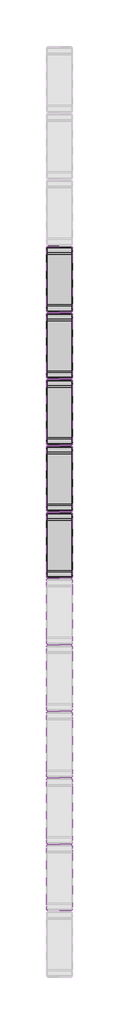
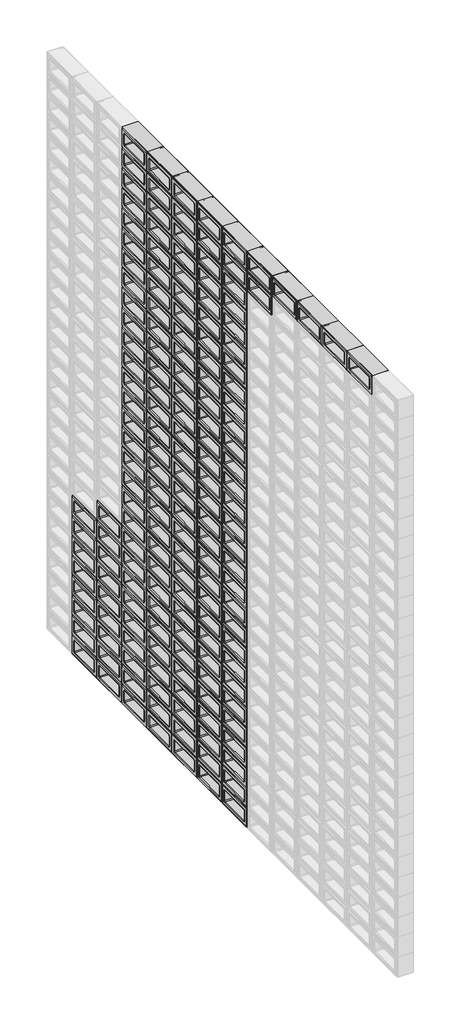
# One storey, part 2 of 59: 168 plates.
"""IFC4 building model written with IfcOpenShell, lengths in millimetres."""

from ifc_helpers import new_model, si_unit, origin, place, context, project, spatial, transform, mapped, element, save
from components import plate_12236348

model = new_model("IFC4")

# Units and contexts
model_context = context("Model", 3, world=origin())
ifc_project = project(units=[si_unit("LENGTHUNIT", "METRE", prefix="MILLI")], contexts=[model_context])

# Site, building, storey
site = spatial("IfcSite", under=ifc_project)
building = spatial("IfcBuilding", under=site)
storey = spatial("IfcBuildingStorey", under=building, Name="PORTOBELLO - SHOWROOM", Elevation=0.0)

# Plates
placement = place(None, origin())
plate_shape = plate_12236348(model_context)
element("IfcPlate", 1, ObjectType="PBSHOP - ON FIRE AURORA 9X19 (PAINEL CORTINA) : AURORA", at=placement, inside=storey, context=model_context, shape_type="MappedRepresentation", body=[
    mapped(plate_shape, transform((-33705.5633853, -7836.0202581, 0.0), x_axis=(0.0, 1.0, 0.0), y_axis=(-1.0, 0.0, 0.0), z_axis=(0.0, 0.0, 1.0))),
])
element("IfcPlate", 2, ObjectType="PBSHOP - ON FIRE AURORA 9X19 (PAINEL CORTINA) : AURORA", at=placement, inside=storey, context=model_context, shape_type="MappedRepresentation", body=[
    mapped(plate_shape, transform((-33705.5633853, -7642.0202581, 0.0), x_axis=(0.0, 1.0, 0.0), y_axis=(-1.0, 0.0, 0.0), z_axis=(0.0, 0.0, 1.0))),
])
element("IfcPlate", 3, ObjectType="PBSHOP - ON FIRE AURORA 9X19 (PAINEL CORTINA) : AURORA", at=placement, inside=storey, context=model_context, shape_type="MappedRepresentation", body=[
    mapped(plate_shape, transform((-33705.5633853, -7448.0202581, 0.0), x_axis=(0.0, 1.0, 0.0), y_axis=(-1.0, 0.0, 0.0), z_axis=(0.0, 0.0, 1.0))),
])
element("IfcPlate", 4, ObjectType="PBSHOP - ON FIRE AURORA 9X19 (PAINEL CORTINA) : AURORA", at=placement, inside=storey, context=model_context, shape_type="MappedRepresentation", body=[
    mapped(plate_shape, transform((-33705.5633853, -7836.0202581, 94.0), x_axis=(0.0, 1.0, 0.0), y_axis=(-1.0, 0.0, 0.0), z_axis=(0.0, 0.0, 1.0))),
])
element("IfcPlate", 5, ObjectType="PBSHOP - ON FIRE AURORA 9X19 (PAINEL CORTINA) : AURORA", at=placement, inside=storey, context=model_context, shape_type="MappedRepresentation", body=[
    mapped(plate_shape, transform((-33705.5633853, -7642.0202581, 94.0), x_axis=(0.0, 1.0, 0.0), y_axis=(-1.0, 0.0, 0.0), z_axis=(0.0, 0.0, 1.0))),
])
element("IfcPlate", 6, ObjectType="PBSHOP - ON FIRE AURORA 9X19 (PAINEL CORTINA) : AURORA", at=placement, inside=storey, context=model_context, shape_type="MappedRepresentation", body=[
    mapped(plate_shape, transform((-33705.5633853, -7448.0202581, 94.0), x_axis=(0.0, 1.0, 0.0), y_axis=(-1.0, 0.0, 0.0), z_axis=(0.0, 0.0, 1.0))),
])
element("IfcPlate", 7, ObjectType="PBSHOP - ON FIRE AURORA 9X19 (PAINEL CORTINA) : AURORA", at=placement, inside=storey, context=model_context, shape_type="MappedRepresentation", body=[
    mapped(plate_shape, transform((-33705.5633853, -7836.0202581, 188.0), x_axis=(0.0, 1.0, 0.0), y_axis=(-1.0, 0.0, 0.0), z_axis=(0.0, 0.0, 1.0))),
])
element("IfcPlate", 8, ObjectType="PBSHOP - ON FIRE AURORA 9X19 (PAINEL CORTINA) : AURORA", at=placement, inside=storey, context=model_context, shape_type="MappedRepresentation", body=[
    mapped(plate_shape, transform((-33705.5633853, -7642.0202581, 188.0), x_axis=(0.0, 1.0, 0.0), y_axis=(-1.0, 0.0, 0.0), z_axis=(0.0, 0.0, 1.0))),
])
element("IfcPlate", 9, ObjectType="PBSHOP - ON FIRE AURORA 9X19 (PAINEL CORTINA) : AURORA", at=placement, inside=storey, context=model_context, shape_type="MappedRepresentation", body=[
    mapped(plate_shape, transform((-33705.5633853, -7448.0202581, 188.0), x_axis=(0.0, 1.0, 0.0), y_axis=(-1.0, 0.0, 0.0), z_axis=(0.0, 0.0, 1.0))),
])
element("IfcPlate", 10, ObjectType="PBSHOP - ON FIRE AURORA 9X19 (PAINEL CORTINA) : AURORA", at=placement, inside=storey, context=model_context, shape_type="MappedRepresentation", body=[
    mapped(plate_shape, transform((-33705.5633853, -7836.0202581, 282.0), x_axis=(0.0, 1.0, 0.0), y_axis=(-1.0, 0.0, 0.0), z_axis=(0.0, 0.0, 1.0))),
])
element("IfcPlate", 11, ObjectType="PBSHOP - ON FIRE AURORA 9X19 (PAINEL CORTINA) : AURORA", at=placement, inside=storey, context=model_context, shape_type="MappedRepresentation", body=[
    mapped(plate_shape, transform((-33705.5633853, -7642.0202581, 282.0), x_axis=(0.0, 1.0, 0.0), y_axis=(-1.0, 0.0, 0.0), z_axis=(0.0, 0.0, 1.0))),
])
element("IfcPlate", 12, ObjectType="PBSHOP - ON FIRE AURORA 9X19 (PAINEL CORTINA) : AURORA", at=placement, inside=storey, context=model_context, shape_type="MappedRepresentation", body=[
    mapped(plate_shape, transform((-33705.5633853, -7448.0202581, 282.0), x_axis=(0.0, 1.0, 0.0), y_axis=(-1.0, 0.0, 0.0), z_axis=(0.0, 0.0, 1.0))),
])
element("IfcPlate", 13, ObjectType="PBSHOP - ON FIRE AURORA 9X19 (PAINEL CORTINA) : AURORA", at=placement, inside=storey, context=model_context, shape_type="MappedRepresentation", body=[
    mapped(plate_shape, transform((-33705.5633853, -7836.0202581, 376.0), x_axis=(0.0, 1.0, 0.0), y_axis=(-1.0, 0.0, 0.0), z_axis=(0.0, 0.0, 1.0))),
])
element("IfcPlate", 14, ObjectType="PBSHOP - ON FIRE AURORA 9X19 (PAINEL CORTINA) : AURORA", at=placement, inside=storey, context=model_context, shape_type="MappedRepresentation", body=[
    mapped(plate_shape, transform((-33705.5633853, -7642.0202581, 376.0), x_axis=(0.0, 1.0, 0.0), y_axis=(-1.0, 0.0, 0.0), z_axis=(0.0, 0.0, 1.0))),
])
element("IfcPlate", 15, ObjectType="PBSHOP - ON FIRE AURORA 9X19 (PAINEL CORTINA) : AURORA", at=placement, inside=storey, context=model_context, shape_type="MappedRepresentation", body=[
    mapped(plate_shape, transform((-33705.5633853, -7448.0202581, 376.0), x_axis=(0.0, 1.0, 0.0), y_axis=(-1.0, 0.0, 0.0), z_axis=(0.0, 0.0, 1.0))),
])
element("IfcPlate", 16, ObjectType="PBSHOP - ON FIRE AURORA 9X19 (PAINEL CORTINA) : AURORA", at=placement, inside=storey, context=model_context, shape_type="MappedRepresentation", body=[
    mapped(plate_shape, transform((-33705.5633853, -7836.0202581, 470.0), x_axis=(0.0, 1.0, 0.0), y_axis=(-1.0, 0.0, 0.0), z_axis=(0.0, 0.0, 1.0))),
])
element("IfcPlate", 17, ObjectType="PBSHOP - ON FIRE AURORA 9X19 (PAINEL CORTINA) : AURORA", at=placement, inside=storey, context=model_context, shape_type="MappedRepresentation", body=[
    mapped(plate_shape, transform((-33705.5633853, -7642.0202581, 470.0), x_axis=(0.0, 1.0, 0.0), y_axis=(-1.0, 0.0, 0.0), z_axis=(0.0, 0.0, 1.0))),
])
element("IfcPlate", 18, ObjectType="PBSHOP - ON FIRE AURORA 9X19 (PAINEL CORTINA) : AURORA", at=placement, inside=storey, context=model_context, shape_type="MappedRepresentation", body=[
    mapped(plate_shape, transform((-33705.5633853, -7448.0202581, 470.0), x_axis=(0.0, 1.0, 0.0), y_axis=(-1.0, 0.0, 0.0), z_axis=(0.0, 0.0, 1.0))),
])
element("IfcPlate", 19, ObjectType="PBSHOP - ON FIRE AURORA 9X19 (PAINEL CORTINA) : AURORA", at=placement, inside=storey, context=model_context, shape_type="MappedRepresentation", body=[
    mapped(plate_shape, transform((-33705.5633853, -7836.0202581, 564.0), x_axis=(0.0, 1.0, 0.0), y_axis=(-1.0, 0.0, 0.0), z_axis=(0.0, 0.0, 1.0))),
])
element("IfcPlate", 20, ObjectType="PBSHOP - ON FIRE AURORA 9X19 (PAINEL CORTINA) : AURORA", at=placement, inside=storey, context=model_context, shape_type="MappedRepresentation", body=[
    mapped(plate_shape, transform((-33705.5633853, -7642.0202581, 564.0), x_axis=(0.0, 1.0, 0.0), y_axis=(-1.0, 0.0, 0.0), z_axis=(0.0, 0.0, 1.0))),
])
element("IfcPlate", 21, ObjectType="PBSHOP - ON FIRE AURORA 9X19 (PAINEL CORTINA) : AURORA", at=placement, inside=storey, context=model_context, shape_type="MappedRepresentation", body=[
    mapped(plate_shape, transform((-33705.5633853, -7448.0202581, 564.0), x_axis=(0.0, 1.0, 0.0), y_axis=(-1.0, 0.0, 0.0), z_axis=(0.0, 0.0, 1.0))),
])
element("IfcPlate", 22, ObjectType="PBSHOP - ON FIRE AURORA 9X19 (PAINEL CORTINA) : AURORA", at=placement, inside=storey, context=model_context, shape_type="MappedRepresentation", body=[
    mapped(plate_shape, transform((-33705.5633853, -7836.0202581, 658.0), x_axis=(0.0, 1.0, 0.0), y_axis=(-1.0, 0.0, 0.0), z_axis=(0.0, 0.0, 1.0))),
])
element("IfcPlate", 23, ObjectType="PBSHOP - ON FIRE AURORA 9X19 (PAINEL CORTINA) : AURORA", at=placement, inside=storey, context=model_context, shape_type="MappedRepresentation", body=[
    mapped(plate_shape, transform((-33705.5633853, -7642.0202581, 658.0), x_axis=(0.0, 1.0, 0.0), y_axis=(-1.0, 0.0, 0.0), z_axis=(0.0, 0.0, 1.0))),
])
element("IfcPlate", 24, ObjectType="PBSHOP - ON FIRE AURORA 9X19 (PAINEL CORTINA) : AURORA", at=placement, inside=storey, context=model_context, shape_type="MappedRepresentation", body=[
    mapped(plate_shape, transform((-33705.5633853, -7448.0202581, 658.0), x_axis=(0.0, 1.0, 0.0), y_axis=(-1.0, 0.0, 0.0), z_axis=(0.0, 0.0, 1.0))),
])
element("IfcPlate", 25, ObjectType="PBSHOP - ON FIRE AURORA 9X19 (PAINEL CORTINA) : AURORA", at=placement, inside=storey, context=model_context, shape_type="MappedRepresentation", body=[
    mapped(plate_shape, transform((-33705.5633853, -7836.0202581, 752.0), x_axis=(0.0, 1.0, 0.0), y_axis=(-1.0, 0.0, 0.0), z_axis=(0.0, 0.0, 1.0))),
])
element("IfcPlate", 26, ObjectType="PBSHOP - ON FIRE AURORA 9X19 (PAINEL CORTINA) : AURORA", at=placement, inside=storey, context=model_context, shape_type="MappedRepresentation", body=[
    mapped(plate_shape, transform((-33705.5633853, -7642.0202581, 752.0), x_axis=(0.0, 1.0, 0.0), y_axis=(-1.0, 0.0, 0.0), z_axis=(0.0, 0.0, 1.0))),
])
element("IfcPlate", 27, ObjectType="PBSHOP - ON FIRE AURORA 9X19 (PAINEL CORTINA) : AURORA", at=placement, inside=storey, context=model_context, shape_type="MappedRepresentation", body=[
    mapped(plate_shape, transform((-33705.5633853, -7448.0202581, 752.0), x_axis=(0.0, 1.0, 0.0), y_axis=(-1.0, 0.0, 0.0), z_axis=(0.0, 0.0, 1.0))),
])
element("IfcPlate", 28, ObjectType="PBSHOP - ON FIRE AURORA 9X19 (PAINEL CORTINA) : AURORA", at=placement, inside=storey, context=model_context, shape_type="MappedRepresentation", body=[
    mapped(plate_shape, transform((-33705.5633853, -7254.0202581, 0.0), x_axis=(0.0, 1.0, 0.0), y_axis=(-1.0, 0.0, 0.0), z_axis=(0.0, 0.0, 1.0))),
])
element("IfcPlate", 29, ObjectType="PBSHOP - ON FIRE AURORA 9X19 (PAINEL CORTINA) : AURORA", at=placement, inside=storey, context=model_context, shape_type="MappedRepresentation", body=[
    mapped(plate_shape, transform((-33705.5633853, -7254.0202581, 94.0), x_axis=(0.0, 1.0, 0.0), y_axis=(-1.0, 0.0, 0.0), z_axis=(0.0, 0.0, 1.0))),
])
element("IfcPlate", 30, ObjectType="PBSHOP - ON FIRE AURORA 9X19 (PAINEL CORTINA) : AURORA", at=placement, inside=storey, context=model_context, shape_type="MappedRepresentation", body=[
    mapped(plate_shape, transform((-33705.5633853, -7254.0202581, 188.0), x_axis=(0.0, 1.0, 0.0), y_axis=(-1.0, 0.0, 0.0), z_axis=(0.0, 0.0, 1.0))),
])
element("IfcPlate", 31, ObjectType="PBSHOP - ON FIRE AURORA 9X19 (PAINEL CORTINA) : AURORA", at=placement, inside=storey, context=model_context, shape_type="MappedRepresentation", body=[
    mapped(plate_shape, transform((-33705.5633853, -7254.0202581, 282.0), x_axis=(0.0, 1.0, 0.0), y_axis=(-1.0, 0.0, 0.0), z_axis=(0.0, 0.0, 1.0))),
])
element("IfcPlate", 32, ObjectType="PBSHOP - ON FIRE AURORA 9X19 (PAINEL CORTINA) : AURORA", at=placement, inside=storey, context=model_context, shape_type="MappedRepresentation", body=[
    mapped(plate_shape, transform((-33705.5633853, -7254.0202581, 376.0), x_axis=(0.0, 1.0, 0.0), y_axis=(-1.0, 0.0, 0.0), z_axis=(0.0, 0.0, 1.0))),
])
element("IfcPlate", 33, ObjectType="PBSHOP - ON FIRE AURORA 9X19 (PAINEL CORTINA) : AURORA", at=placement, inside=storey, context=model_context, shape_type="MappedRepresentation", body=[
    mapped(plate_shape, transform((-33705.5633853, -7254.0202581, 470.0), x_axis=(0.0, 1.0, 0.0), y_axis=(-1.0, 0.0, 0.0), z_axis=(0.0, 0.0, 1.0))),
])
element("IfcPlate", 34, ObjectType="PBSHOP - ON FIRE AURORA 9X19 (PAINEL CORTINA) : AURORA", at=placement, inside=storey, context=model_context, shape_type="MappedRepresentation", body=[
    mapped(plate_shape, transform((-33705.5633853, -7254.0202581, 564.0), x_axis=(0.0, 1.0, 0.0), y_axis=(-1.0, 0.0, 0.0), z_axis=(0.0, 0.0, 1.0))),
])
element("IfcPlate", 35, ObjectType="PBSHOP - ON FIRE AURORA 9X19 (PAINEL CORTINA) : AURORA", at=placement, inside=storey, context=model_context, shape_type="MappedRepresentation", body=[
    mapped(plate_shape, transform((-33705.5633853, -7254.0202581, 658.0), x_axis=(0.0, 1.0, 0.0), y_axis=(-1.0, 0.0, 0.0), z_axis=(0.0, 0.0, 1.0))),
])
element("IfcPlate", 36, ObjectType="PBSHOP - ON FIRE AURORA 9X19 (PAINEL CORTINA) : AURORA", at=placement, inside=storey, context=model_context, shape_type="MappedRepresentation", body=[
    mapped(plate_shape, transform((-33705.5633853, -7254.0202581, 752.0), x_axis=(0.0, 1.0, 0.0), y_axis=(-1.0, 0.0, 0.0), z_axis=(0.0, 0.0, 1.0))),
])
element("IfcPlate", 37, ObjectType="PBSHOP - ON FIRE AURORA 9X19 (PAINEL CORTINA) : AURORA", at=placement, inside=storey, context=model_context, shape_type="MappedRepresentation", body=[
    mapped(plate_shape, transform((-33705.5633853, -7060.0202581, 0.0), x_axis=(0.0, 1.0, 0.0), y_axis=(-1.0, 0.0, 0.0), z_axis=(0.0, 0.0, 1.0))),
])
element("IfcPlate", 38, ObjectType="PBSHOP - ON FIRE AURORA 9X19 (PAINEL CORTINA) : AURORA", at=placement, inside=storey, context=model_context, shape_type="MappedRepresentation", body=[
    mapped(plate_shape, transform((-33705.5633853, -7060.0202581, 94.0), x_axis=(0.0, 1.0, 0.0), y_axis=(-1.0, 0.0, 0.0), z_axis=(0.0, 0.0, 1.0))),
])
element("IfcPlate", 39, ObjectType="PBSHOP - ON FIRE AURORA 9X19 (PAINEL CORTINA) : AURORA", at=placement, inside=storey, context=model_context, shape_type="MappedRepresentation", body=[
    mapped(plate_shape, transform((-33705.5633853, -7060.0202581, 188.0), x_axis=(0.0, 1.0, 0.0), y_axis=(-1.0, 0.0, 0.0), z_axis=(0.0, 0.0, 1.0))),
])
element("IfcPlate", 40, ObjectType="PBSHOP - ON FIRE AURORA 9X19 (PAINEL CORTINA) : AURORA", at=placement, inside=storey, context=model_context, shape_type="MappedRepresentation", body=[
    mapped(plate_shape, transform((-33705.5633853, -7060.0202581, 282.0), x_axis=(0.0, 1.0, 0.0), y_axis=(-1.0, 0.0, 0.0), z_axis=(0.0, 0.0, 1.0))),
])
element("IfcPlate", 41, ObjectType="PBSHOP - ON FIRE AURORA 9X19 (PAINEL CORTINA) : AURORA", at=placement, inside=storey, context=model_context, shape_type="MappedRepresentation", body=[
    mapped(plate_shape, transform((-33705.5633853, -7060.0202581, 376.0), x_axis=(0.0, 1.0, 0.0), y_axis=(-1.0, 0.0, 0.0), z_axis=(0.0, 0.0, 1.0))),
])
element("IfcPlate", 42, ObjectType="PBSHOP - ON FIRE AURORA 9X19 (PAINEL CORTINA) : AURORA", at=placement, inside=storey, context=model_context, shape_type="MappedRepresentation", body=[
    mapped(plate_shape, transform((-33705.5633853, -7060.0202581, 470.0), x_axis=(0.0, 1.0, 0.0), y_axis=(-1.0, 0.0, 0.0), z_axis=(0.0, 0.0, 1.0))),
])
element("IfcPlate", 43, ObjectType="PBSHOP - ON FIRE AURORA 9X19 (PAINEL CORTINA) : AURORA", at=placement, inside=storey, context=model_context, shape_type="MappedRepresentation", body=[
    mapped(plate_shape, transform((-33705.5633853, -7060.0202581, 564.0), x_axis=(0.0, 1.0, 0.0), y_axis=(-1.0, 0.0, 0.0), z_axis=(0.0, 0.0, 1.0))),
])
element("IfcPlate", 44, ObjectType="PBSHOP - ON FIRE AURORA 9X19 (PAINEL CORTINA) : AURORA", at=placement, inside=storey, context=model_context, shape_type="MappedRepresentation", body=[
    mapped(plate_shape, transform((-33705.5633853, -7060.0202581, 658.0), x_axis=(0.0, 1.0, 0.0), y_axis=(-1.0, 0.0, 0.0), z_axis=(0.0, 0.0, 1.0))),
])
element("IfcPlate", 45, ObjectType="PBSHOP - ON FIRE AURORA 9X19 (PAINEL CORTINA) : AURORA", at=placement, inside=storey, context=model_context, shape_type="MappedRepresentation", body=[
    mapped(plate_shape, transform((-33705.5633853, -7060.0202581, 752.0), x_axis=(0.0, 1.0, 0.0), y_axis=(-1.0, 0.0, 0.0), z_axis=(0.0, 0.0, 1.0))),
])
element("IfcPlate", 46, ObjectType="PBSHOP - ON FIRE AURORA 9X19 (PAINEL CORTINA) : AURORA", at=placement, inside=storey, context=model_context, shape_type="MappedRepresentation", body=[
    mapped(plate_shape, transform((-33705.5633853, -6866.0202581, 0.0), x_axis=(0.0, 1.0, 0.0), y_axis=(-1.0, 0.0, 0.0), z_axis=(0.0, 0.0, 1.0))),
])
element("IfcPlate", 47, ObjectType="PBSHOP - ON FIRE AURORA 9X19 (PAINEL CORTINA) : AURORA", at=placement, inside=storey, context=model_context, shape_type="MappedRepresentation", body=[
    mapped(plate_shape, transform((-33705.5633853, -6866.0202581, 94.0), x_axis=(0.0, 1.0, 0.0), y_axis=(-1.0, 0.0, 0.0), z_axis=(0.0, 0.0, 1.0))),
])
element("IfcPlate", 48, ObjectType="PBSHOP - ON FIRE AURORA 9X19 (PAINEL CORTINA) : AURORA", at=placement, inside=storey, context=model_context, shape_type="MappedRepresentation", body=[
    mapped(plate_shape, transform((-33705.5633853, -6866.0202581, 188.0), x_axis=(0.0, 1.0, 0.0), y_axis=(-1.0, 0.0, 0.0), z_axis=(0.0, 0.0, 1.0))),
])
element("IfcPlate", 49, ObjectType="PBSHOP - ON FIRE AURORA 9X19 (PAINEL CORTINA) : AURORA", at=placement, inside=storey, context=model_context, shape_type="MappedRepresentation", body=[
    mapped(plate_shape, transform((-33705.5633853, -6866.0202581, 282.0), x_axis=(0.0, 1.0, 0.0), y_axis=(-1.0, 0.0, 0.0), z_axis=(0.0, 0.0, 1.0))),
])
element("IfcPlate", 50, ObjectType="PBSHOP - ON FIRE AURORA 9X19 (PAINEL CORTINA) : AURORA", at=placement, inside=storey, context=model_context, shape_type="MappedRepresentation", body=[
    mapped(plate_shape, transform((-33705.5633853, -6866.0202581, 376.0), x_axis=(0.0, 1.0, 0.0), y_axis=(-1.0, 0.0, 0.0), z_axis=(0.0, 0.0, 1.0))),
])
element("IfcPlate", 51, ObjectType="PBSHOP - ON FIRE AURORA 9X19 (PAINEL CORTINA) : AURORA", at=placement, inside=storey, context=model_context, shape_type="MappedRepresentation", body=[
    mapped(plate_shape, transform((-33705.5633853, -6866.0202581, 470.0), x_axis=(0.0, 1.0, 0.0), y_axis=(-1.0, 0.0, 0.0), z_axis=(0.0, 0.0, 1.0))),
])
element("IfcPlate", 52, ObjectType="PBSHOP - ON FIRE AURORA 9X19 (PAINEL CORTINA) : AURORA", at=placement, inside=storey, context=model_context, shape_type="MappedRepresentation", body=[
    mapped(plate_shape, transform((-33705.5633853, -6866.0202581, 564.0), x_axis=(0.0, 1.0, 0.0), y_axis=(-1.0, 0.0, 0.0), z_axis=(0.0, 0.0, 1.0))),
])
element("IfcPlate", 53, ObjectType="PBSHOP - ON FIRE AURORA 9X19 (PAINEL CORTINA) : AURORA", at=placement, inside=storey, context=model_context, shape_type="MappedRepresentation", body=[
    mapped(plate_shape, transform((-33705.5633853, -6866.0202581, 658.0), x_axis=(0.0, 1.0, 0.0), y_axis=(-1.0, 0.0, 0.0), z_axis=(0.0, 0.0, 1.0))),
])
element("IfcPlate", 54, ObjectType="PBSHOP - ON FIRE AURORA 9X19 (PAINEL CORTINA) : AURORA", at=placement, inside=storey, context=model_context, shape_type="MappedRepresentation", body=[
    mapped(plate_shape, transform((-33705.5633853, -6866.0202581, 752.0), x_axis=(0.0, 1.0, 0.0), y_axis=(-1.0, 0.0, 0.0), z_axis=(0.0, 0.0, 1.0))),
])
element("IfcPlate", 55, ObjectType="PBSHOP - ON FIRE AURORA 9X19 (PAINEL CORTINA) : AURORA", at=placement, inside=storey, context=model_context, shape_type="MappedRepresentation", body=[
    mapped(plate_shape, transform((-33705.5633853, -6672.0202581, 0.0), x_axis=(0.0, 1.0, 0.0), y_axis=(-1.0, 0.0, 0.0), z_axis=(0.0, 0.0, 1.0))),
])
element("IfcPlate", 56, ObjectType="PBSHOP - ON FIRE AURORA 9X19 (PAINEL CORTINA) : AURORA", at=placement, inside=storey, context=model_context, shape_type="MappedRepresentation", body=[
    mapped(plate_shape, transform((-33705.5633853, -6672.0202581, 94.0), x_axis=(0.0, 1.0, 0.0), y_axis=(-1.0, 0.0, 0.0), z_axis=(0.0, 0.0, 1.0))),
])
element("IfcPlate", 57, ObjectType="PBSHOP - ON FIRE AURORA 9X19 (PAINEL CORTINA) : AURORA", at=placement, inside=storey, context=model_context, shape_type="MappedRepresentation", body=[
    mapped(plate_shape, transform((-33705.5633853, -6672.0202581, 188.0), x_axis=(0.0, 1.0, 0.0), y_axis=(-1.0, 0.0, 0.0), z_axis=(0.0, 0.0, 1.0))),
])
element("IfcPlate", 58, ObjectType="PBSHOP - ON FIRE AURORA 9X19 (PAINEL CORTINA) : AURORA", at=placement, inside=storey, context=model_context, shape_type="MappedRepresentation", body=[
    mapped(plate_shape, transform((-33705.5633853, -6672.0202581, 282.0), x_axis=(0.0, 1.0, 0.0), y_axis=(-1.0, 0.0, 0.0), z_axis=(0.0, 0.0, 1.0))),
])
element("IfcPlate", 59, ObjectType="PBSHOP - ON FIRE AURORA 9X19 (PAINEL CORTINA) : AURORA", at=placement, inside=storey, context=model_context, shape_type="MappedRepresentation", body=[
    mapped(plate_shape, transform((-33705.5633853, -6672.0202581, 376.0), x_axis=(0.0, 1.0, 0.0), y_axis=(-1.0, 0.0, 0.0), z_axis=(0.0, 0.0, 1.0))),
])
element("IfcPlate", 60, ObjectType="PBSHOP - ON FIRE AURORA 9X19 (PAINEL CORTINA) : AURORA", at=placement, inside=storey, context=model_context, shape_type="MappedRepresentation", body=[
    mapped(plate_shape, transform((-33705.5633853, -6672.0202581, 470.0), x_axis=(0.0, 1.0, 0.0), y_axis=(-1.0, 0.0, 0.0), z_axis=(0.0, 0.0, 1.0))),
])
element("IfcPlate", 61, ObjectType="PBSHOP - ON FIRE AURORA 9X19 (PAINEL CORTINA) : AURORA", at=placement, inside=storey, context=model_context, shape_type="MappedRepresentation", body=[
    mapped(plate_shape, transform((-33705.5633853, -6672.0202581, 564.0), x_axis=(0.0, 1.0, 0.0), y_axis=(-1.0, 0.0, 0.0), z_axis=(0.0, 0.0, 1.0))),
])
element("IfcPlate", 62, ObjectType="PBSHOP - ON FIRE AURORA 9X19 (PAINEL CORTINA) : AURORA", at=placement, inside=storey, context=model_context, shape_type="MappedRepresentation", body=[
    mapped(plate_shape, transform((-33705.5633853, -6672.0202581, 658.0), x_axis=(0.0, 1.0, 0.0), y_axis=(-1.0, 0.0, 0.0), z_axis=(0.0, 0.0, 1.0))),
])
element("IfcPlate", 63, ObjectType="PBSHOP - ON FIRE AURORA 9X19 (PAINEL CORTINA) : AURORA", at=placement, inside=storey, context=model_context, shape_type="MappedRepresentation", body=[
    mapped(plate_shape, transform((-33705.5633853, -7836.0202581, 846.0), x_axis=(0.0, 1.0, 0.0), y_axis=(-1.0, 0.0, 0.0), z_axis=(0.0, 0.0, 1.0))),
])
element("IfcPlate", 64, ObjectType="PBSHOP - ON FIRE AURORA 9X19 (PAINEL CORTINA) : AURORA", at=placement, inside=storey, context=model_context, shape_type="MappedRepresentation", body=[
    mapped(plate_shape, transform((-33705.5633853, -7642.0202581, 846.0), x_axis=(0.0, 1.0, 0.0), y_axis=(-1.0, 0.0, 0.0), z_axis=(0.0, 0.0, 1.0))),
])
element("IfcPlate", 65, ObjectType="PBSHOP - ON FIRE AURORA 9X19 (PAINEL CORTINA) : AURORA", at=placement, inside=storey, context=model_context, shape_type="MappedRepresentation", body=[
    mapped(plate_shape, transform((-33705.5633853, -7448.0202581, 846.0), x_axis=(0.0, 1.0, 0.0), y_axis=(-1.0, 0.0, 0.0), z_axis=(0.0, 0.0, 1.0))),
])
element("IfcPlate", 66, ObjectType="PBSHOP - ON FIRE AURORA 9X19 (PAINEL CORTINA) : AURORA", at=placement, inside=storey, context=model_context, shape_type="MappedRepresentation", body=[
    mapped(plate_shape, transform((-33705.5633853, -7254.0202581, 846.0), x_axis=(0.0, 1.0, 0.0), y_axis=(-1.0, 0.0, 0.0), z_axis=(0.0, 0.0, 1.0))),
])
element("IfcPlate", 67, ObjectType="PBSHOP - ON FIRE AURORA 9X19 (PAINEL CORTINA) : AURORA", at=placement, inside=storey, context=model_context, shape_type="MappedRepresentation", body=[
    mapped(plate_shape, transform((-33705.5633853, -7060.0202581, 846.0), x_axis=(0.0, 1.0, 0.0), y_axis=(-1.0, 0.0, 0.0), z_axis=(0.0, 0.0, 1.0))),
])
element("IfcPlate", 68, ObjectType="PBSHOP - ON FIRE AURORA 9X19 (PAINEL CORTINA) : AURORA", at=placement, inside=storey, context=model_context, shape_type="MappedRepresentation", body=[
    mapped(plate_shape, transform((-33705.5633853, -7836.0202581, 940.0), x_axis=(0.0, 1.0, 0.0), y_axis=(-1.0, 0.0, 0.0), z_axis=(0.0, 0.0, 1.0))),
])
element("IfcPlate", 69, ObjectType="PBSHOP - ON FIRE AURORA 9X19 (PAINEL CORTINA) : AURORA", at=placement, inside=storey, context=model_context, shape_type="MappedRepresentation", body=[
    mapped(plate_shape, transform((-33705.5633853, -7642.0202581, 940.0), x_axis=(0.0, 1.0, 0.0), y_axis=(-1.0, 0.0, 0.0), z_axis=(0.0, 0.0, 1.0))),
])
element("IfcPlate", 70, ObjectType="PBSHOP - ON FIRE AURORA 9X19 (PAINEL CORTINA) : AURORA", at=placement, inside=storey, context=model_context, shape_type="MappedRepresentation", body=[
    mapped(plate_shape, transform((-33705.5633853, -7448.0202581, 940.0), x_axis=(0.0, 1.0, 0.0), y_axis=(-1.0, 0.0, 0.0), z_axis=(0.0, 0.0, 1.0))),
])
element("IfcPlate", 71, ObjectType="PBSHOP - ON FIRE AURORA 9X19 (PAINEL CORTINA) : AURORA", at=placement, inside=storey, context=model_context, shape_type="MappedRepresentation", body=[
    mapped(plate_shape, transform((-33705.5633853, -7254.0202581, 940.0), x_axis=(0.0, 1.0, 0.0), y_axis=(-1.0, 0.0, 0.0), z_axis=(0.0, 0.0, 1.0))),
])
element("IfcPlate", 72, ObjectType="PBSHOP - ON FIRE AURORA 9X19 (PAINEL CORTINA) : AURORA", at=placement, inside=storey, context=model_context, shape_type="MappedRepresentation", body=[
    mapped(plate_shape, transform((-33705.5633853, -7060.0202581, 940.0), x_axis=(0.0, 1.0, 0.0), y_axis=(-1.0, 0.0, 0.0), z_axis=(0.0, 0.0, 1.0))),
])
element("IfcPlate", 73, ObjectType="PBSHOP - ON FIRE AURORA 9X19 (PAINEL CORTINA) : AURORA", at=placement, inside=storey, context=model_context, shape_type="MappedRepresentation", body=[
    mapped(plate_shape, transform((-33705.5633853, -7836.0202581, 1034.0), x_axis=(0.0, 1.0, 0.0), y_axis=(-1.0, 0.0, 0.0), z_axis=(0.0, 0.0, 1.0))),
])
element("IfcPlate", 74, ObjectType="PBSHOP - ON FIRE AURORA 9X19 (PAINEL CORTINA) : AURORA", at=placement, inside=storey, context=model_context, shape_type="MappedRepresentation", body=[
    mapped(plate_shape, transform((-33705.5633853, -7642.0202581, 1034.0), x_axis=(0.0, 1.0, 0.0), y_axis=(-1.0, 0.0, 0.0), z_axis=(0.0, 0.0, 1.0))),
])
element("IfcPlate", 75, ObjectType="PBSHOP - ON FIRE AURORA 9X19 (PAINEL CORTINA) : AURORA", at=placement, inside=storey, context=model_context, shape_type="MappedRepresentation", body=[
    mapped(plate_shape, transform((-33705.5633853, -7448.0202581, 1034.0), x_axis=(0.0, 1.0, 0.0), y_axis=(-1.0, 0.0, 0.0), z_axis=(0.0, 0.0, 1.0))),
])
element("IfcPlate", 76, ObjectType="PBSHOP - ON FIRE AURORA 9X19 (PAINEL CORTINA) : AURORA", at=placement, inside=storey, context=model_context, shape_type="MappedRepresentation", body=[
    mapped(plate_shape, transform((-33705.5633853, -7254.0202581, 1034.0), x_axis=(0.0, 1.0, 0.0), y_axis=(-1.0, 0.0, 0.0), z_axis=(0.0, 0.0, 1.0))),
])
element("IfcPlate", 77, ObjectType="PBSHOP - ON FIRE AURORA 9X19 (PAINEL CORTINA) : AURORA", at=placement, inside=storey, context=model_context, shape_type="MappedRepresentation", body=[
    mapped(plate_shape, transform((-33705.5633853, -7060.0202581, 1034.0), x_axis=(0.0, 1.0, 0.0), y_axis=(-1.0, 0.0, 0.0), z_axis=(0.0, 0.0, 1.0))),
])
element("IfcPlate", 78, ObjectType="PBSHOP - ON FIRE AURORA 9X19 (PAINEL CORTINA) : AURORA", at=placement, inside=storey, context=model_context, shape_type="MappedRepresentation", body=[
    mapped(plate_shape, transform((-33705.5633853, -7836.0202581, 1128.0), x_axis=(0.0, 1.0, 0.0), y_axis=(-1.0, 0.0, 0.0), z_axis=(0.0, 0.0, 1.0))),
])
element("IfcPlate", 79, ObjectType="PBSHOP - ON FIRE AURORA 9X19 (PAINEL CORTINA) : AURORA", at=placement, inside=storey, context=model_context, shape_type="MappedRepresentation", body=[
    mapped(plate_shape, transform((-33705.5633853, -7642.0202581, 1128.0), x_axis=(0.0, 1.0, 0.0), y_axis=(-1.0, 0.0, 0.0), z_axis=(0.0, 0.0, 1.0))),
])
element("IfcPlate", 80, ObjectType="PBSHOP - ON FIRE AURORA 9X19 (PAINEL CORTINA) : AURORA", at=placement, inside=storey, context=model_context, shape_type="MappedRepresentation", body=[
    mapped(plate_shape, transform((-33705.5633853, -7448.0202581, 1128.0), x_axis=(0.0, 1.0, 0.0), y_axis=(-1.0, 0.0, 0.0), z_axis=(0.0, 0.0, 1.0))),
])
element("IfcPlate", 81, ObjectType="PBSHOP - ON FIRE AURORA 9X19 (PAINEL CORTINA) : AURORA", at=placement, inside=storey, context=model_context, shape_type="MappedRepresentation", body=[
    mapped(plate_shape, transform((-33705.5633853, -7254.0202581, 1128.0), x_axis=(0.0, 1.0, 0.0), y_axis=(-1.0, 0.0, 0.0), z_axis=(0.0, 0.0, 1.0))),
])
element("IfcPlate", 82, ObjectType="PBSHOP - ON FIRE AURORA 9X19 (PAINEL CORTINA) : AURORA", at=placement, inside=storey, context=model_context, shape_type="MappedRepresentation", body=[
    mapped(plate_shape, transform((-33705.5633853, -7060.0202581, 1128.0), x_axis=(0.0, 1.0, 0.0), y_axis=(-1.0, 0.0, 0.0), z_axis=(0.0, 0.0, 1.0))),
])
element("IfcPlate", 83, ObjectType="PBSHOP - ON FIRE AURORA 9X19 (PAINEL CORTINA) : AURORA", at=placement, inside=storey, context=model_context, shape_type="MappedRepresentation", body=[
    mapped(plate_shape, transform((-33705.5633853, -7836.0202581, 1222.0), x_axis=(0.0, 1.0, 0.0), y_axis=(-1.0, 0.0, 0.0), z_axis=(0.0, 0.0, 1.0))),
])
element("IfcPlate", 84, ObjectType="PBSHOP - ON FIRE AURORA 9X19 (PAINEL CORTINA) : AURORA", at=placement, inside=storey, context=model_context, shape_type="MappedRepresentation", body=[
    mapped(plate_shape, transform((-33705.5633853, -7642.0202581, 1222.0), x_axis=(0.0, 1.0, 0.0), y_axis=(-1.0, 0.0, 0.0), z_axis=(0.0, 0.0, 1.0))),
])
element("IfcPlate", 85, ObjectType="PBSHOP - ON FIRE AURORA 9X19 (PAINEL CORTINA) : AURORA", at=placement, inside=storey, context=model_context, shape_type="MappedRepresentation", body=[
    mapped(plate_shape, transform((-33705.5633853, -7448.0202581, 1222.0), x_axis=(0.0, 1.0, 0.0), y_axis=(-1.0, 0.0, 0.0), z_axis=(0.0, 0.0, 1.0))),
])
element("IfcPlate", 86, ObjectType="PBSHOP - ON FIRE AURORA 9X19 (PAINEL CORTINA) : AURORA", at=placement, inside=storey, context=model_context, shape_type="MappedRepresentation", body=[
    mapped(plate_shape, transform((-33705.5633853, -7254.0202581, 1222.0), x_axis=(0.0, 1.0, 0.0), y_axis=(-1.0, 0.0, 0.0), z_axis=(0.0, 0.0, 1.0))),
])
element("IfcPlate", 87, ObjectType="PBSHOP - ON FIRE AURORA 9X19 (PAINEL CORTINA) : AURORA", at=placement, inside=storey, context=model_context, shape_type="MappedRepresentation", body=[
    mapped(plate_shape, transform((-33705.5633853, -7060.0202581, 1222.0), x_axis=(0.0, 1.0, 0.0), y_axis=(-1.0, 0.0, 0.0), z_axis=(0.0, 0.0, 1.0))),
])
element("IfcPlate", 88, ObjectType="PBSHOP - ON FIRE AURORA 9X19 (PAINEL CORTINA) : AURORA", at=placement, inside=storey, context=model_context, shape_type="MappedRepresentation", body=[
    mapped(plate_shape, transform((-33705.5633853, -7836.0202581, 1316.0), x_axis=(0.0, 1.0, 0.0), y_axis=(-1.0, 0.0, 0.0), z_axis=(0.0, 0.0, 1.0))),
])
element("IfcPlate", 89, ObjectType="PBSHOP - ON FIRE AURORA 9X19 (PAINEL CORTINA) : AURORA", at=placement, inside=storey, context=model_context, shape_type="MappedRepresentation", body=[
    mapped(plate_shape, transform((-33705.5633853, -7642.0202581, 1316.0), x_axis=(0.0, 1.0, 0.0), y_axis=(-1.0, 0.0, 0.0), z_axis=(0.0, 0.0, 1.0))),
])
element("IfcPlate", 90, ObjectType="PBSHOP - ON FIRE AURORA 9X19 (PAINEL CORTINA) : AURORA", at=placement, inside=storey, context=model_context, shape_type="MappedRepresentation", body=[
    mapped(plate_shape, transform((-33705.5633853, -7448.0202581, 1316.0), x_axis=(0.0, 1.0, 0.0), y_axis=(-1.0, 0.0, 0.0), z_axis=(0.0, 0.0, 1.0))),
])
element("IfcPlate", 91, ObjectType="PBSHOP - ON FIRE AURORA 9X19 (PAINEL CORTINA) : AURORA", at=placement, inside=storey, context=model_context, shape_type="MappedRepresentation", body=[
    mapped(plate_shape, transform((-33705.5633853, -7254.0202581, 1316.0), x_axis=(0.0, 1.0, 0.0), y_axis=(-1.0, 0.0, 0.0), z_axis=(0.0, 0.0, 1.0))),
])
element("IfcPlate", 92, ObjectType="PBSHOP - ON FIRE AURORA 9X19 (PAINEL CORTINA) : AURORA", at=placement, inside=storey, context=model_context, shape_type="MappedRepresentation", body=[
    mapped(plate_shape, transform((-33705.5633853, -7060.0202581, 1316.0), x_axis=(0.0, 1.0, 0.0), y_axis=(-1.0, 0.0, 0.0), z_axis=(0.0, 0.0, 1.0))),
])
element("IfcPlate", 93, ObjectType="PBSHOP - ON FIRE AURORA 9X19 (PAINEL CORTINA) : AURORA", at=placement, inside=storey, context=model_context, shape_type="MappedRepresentation", body=[
    mapped(plate_shape, transform((-33705.5633853, -7836.0202581, 1410.0), x_axis=(0.0, 1.0, 0.0), y_axis=(-1.0, 0.0, 0.0), z_axis=(0.0, 0.0, 1.0))),
])
element("IfcPlate", 94, ObjectType="PBSHOP - ON FIRE AURORA 9X19 (PAINEL CORTINA) : AURORA", at=placement, inside=storey, context=model_context, shape_type="MappedRepresentation", body=[
    mapped(plate_shape, transform((-33705.5633853, -7642.0202581, 1410.0), x_axis=(0.0, 1.0, 0.0), y_axis=(-1.0, 0.0, 0.0), z_axis=(0.0, 0.0, 1.0))),
])
element("IfcPlate", 95, ObjectType="PBSHOP - ON FIRE AURORA 9X19 (PAINEL CORTINA) : AURORA", at=placement, inside=storey, context=model_context, shape_type="MappedRepresentation", body=[
    mapped(plate_shape, transform((-33705.5633853, -7448.0202581, 1410.0), x_axis=(0.0, 1.0, 0.0), y_axis=(-1.0, 0.0, 0.0), z_axis=(0.0, 0.0, 1.0))),
])
element("IfcPlate", 96, ObjectType="PBSHOP - ON FIRE AURORA 9X19 (PAINEL CORTINA) : AURORA", at=placement, inside=storey, context=model_context, shape_type="MappedRepresentation", body=[
    mapped(plate_shape, transform((-33705.5633853, -7254.0202581, 1410.0), x_axis=(0.0, 1.0, 0.0), y_axis=(-1.0, 0.0, 0.0), z_axis=(0.0, 0.0, 1.0))),
])
element("IfcPlate", 97, ObjectType="PBSHOP - ON FIRE AURORA 9X19 (PAINEL CORTINA) : AURORA", at=placement, inside=storey, context=model_context, shape_type="MappedRepresentation", body=[
    mapped(plate_shape, transform((-33705.5633853, -7060.0202581, 1410.0), x_axis=(0.0, 1.0, 0.0), y_axis=(-1.0, 0.0, 0.0), z_axis=(0.0, 0.0, 1.0))),
])
element("IfcPlate", 98, ObjectType="PBSHOP - ON FIRE AURORA 9X19 (PAINEL CORTINA) : AURORA", at=placement, inside=storey, context=model_context, shape_type="MappedRepresentation", body=[
    mapped(plate_shape, transform((-33705.5633853, -7836.0202581, 1504.0), x_axis=(0.0, 1.0, 0.0), y_axis=(-1.0, 0.0, 0.0), z_axis=(0.0, 0.0, 1.0))),
])
element("IfcPlate", 99, ObjectType="PBSHOP - ON FIRE AURORA 9X19 (PAINEL CORTINA) : AURORA", at=placement, inside=storey, context=model_context, shape_type="MappedRepresentation", body=[
    mapped(plate_shape, transform((-33705.5633853, -7642.0202581, 1504.0), x_axis=(0.0, 1.0, 0.0), y_axis=(-1.0, 0.0, 0.0), z_axis=(0.0, 0.0, 1.0))),
])
element("IfcPlate", 100, ObjectType="PBSHOP - ON FIRE AURORA 9X19 (PAINEL CORTINA) : AURORA", at=placement, inside=storey, context=model_context, shape_type="MappedRepresentation", body=[
    mapped(plate_shape, transform((-33705.5633853, -7448.0202581, 1504.0), x_axis=(0.0, 1.0, 0.0), y_axis=(-1.0, 0.0, 0.0), z_axis=(0.0, 0.0, 1.0))),
])
element("IfcPlate", 101, ObjectType="PBSHOP - ON FIRE AURORA 9X19 (PAINEL CORTINA) : AURORA", at=placement, inside=storey, context=model_context, shape_type="MappedRepresentation", body=[
    mapped(plate_shape, transform((-33705.5633853, -7254.0202581, 1504.0), x_axis=(0.0, 1.0, 0.0), y_axis=(-1.0, 0.0, 0.0), z_axis=(0.0, 0.0, 1.0))),
])
element("IfcPlate", 102, ObjectType="PBSHOP - ON FIRE AURORA 9X19 (PAINEL CORTINA) : AURORA", at=placement, inside=storey, context=model_context, shape_type="MappedRepresentation", body=[
    mapped(plate_shape, transform((-33705.5633853, -7060.0202581, 1504.0), x_axis=(0.0, 1.0, 0.0), y_axis=(-1.0, 0.0, 0.0), z_axis=(0.0, 0.0, 1.0))),
])
element("IfcPlate", 103, ObjectType="PBSHOP - ON FIRE AURORA 9X19 (PAINEL CORTINA) : AURORA", at=placement, inside=storey, context=model_context, shape_type="MappedRepresentation", body=[
    mapped(plate_shape, transform((-33705.5633853, -7836.0202581, 1598.0), x_axis=(0.0, 1.0, 0.0), y_axis=(-1.0, 0.0, 0.0), z_axis=(0.0, 0.0, 1.0))),
])
element("IfcPlate", 104, ObjectType="PBSHOP - ON FIRE AURORA 9X19 (PAINEL CORTINA) : AURORA", at=placement, inside=storey, context=model_context, shape_type="MappedRepresentation", body=[
    mapped(plate_shape, transform((-33705.5633853, -7642.0202581, 1598.0), x_axis=(0.0, 1.0, 0.0), y_axis=(-1.0, 0.0, 0.0), z_axis=(0.0, 0.0, 1.0))),
])
element("IfcPlate", 105, ObjectType="PBSHOP - ON FIRE AURORA 9X19 (PAINEL CORTINA) : AURORA", at=placement, inside=storey, context=model_context, shape_type="MappedRepresentation", body=[
    mapped(plate_shape, transform((-33705.5633853, -7448.0202581, 1598.0), x_axis=(0.0, 1.0, 0.0), y_axis=(-1.0, 0.0, 0.0), z_axis=(0.0, 0.0, 1.0))),
])
element("IfcPlate", 106, ObjectType="PBSHOP - ON FIRE AURORA 9X19 (PAINEL CORTINA) : AURORA", at=placement, inside=storey, context=model_context, shape_type="MappedRepresentation", body=[
    mapped(plate_shape, transform((-33705.5633853, -7254.0202581, 1598.0), x_axis=(0.0, 1.0, 0.0), y_axis=(-1.0, 0.0, 0.0), z_axis=(0.0, 0.0, 1.0))),
])
element("IfcPlate", 107, ObjectType="PBSHOP - ON FIRE AURORA 9X19 (PAINEL CORTINA) : AURORA", at=placement, inside=storey, context=model_context, shape_type="MappedRepresentation", body=[
    mapped(plate_shape, transform((-33705.5633853, -7060.0202581, 1598.0), x_axis=(0.0, 1.0, 0.0), y_axis=(-1.0, 0.0, 0.0), z_axis=(0.0, 0.0, 1.0))),
])
element("IfcPlate", 108, ObjectType="PBSHOP - ON FIRE AURORA 9X19 (PAINEL CORTINA) : AURORA", at=placement, inside=storey, context=model_context, shape_type="MappedRepresentation", body=[
    mapped(plate_shape, transform((-33705.5633853, -7836.0202581, 1692.0), x_axis=(0.0, 1.0, 0.0), y_axis=(-1.0, 0.0, 0.0), z_axis=(0.0, 0.0, 1.0))),
])
element("IfcPlate", 109, ObjectType="PBSHOP - ON FIRE AURORA 9X19 (PAINEL CORTINA) : AURORA", at=placement, inside=storey, context=model_context, shape_type="MappedRepresentation", body=[
    mapped(plate_shape, transform((-33705.5633853, -7642.0202581, 1692.0), x_axis=(0.0, 1.0, 0.0), y_axis=(-1.0, 0.0, 0.0), z_axis=(0.0, 0.0, 1.0))),
])
element("IfcPlate", 110, ObjectType="PBSHOP - ON FIRE AURORA 9X19 (PAINEL CORTINA) : AURORA", at=placement, inside=storey, context=model_context, shape_type="MappedRepresentation", body=[
    mapped(plate_shape, transform((-33705.5633853, -7448.0202581, 1692.0), x_axis=(0.0, 1.0, 0.0), y_axis=(-1.0, 0.0, 0.0), z_axis=(0.0, 0.0, 1.0))),
])
element("IfcPlate", 111, ObjectType="PBSHOP - ON FIRE AURORA 9X19 (PAINEL CORTINA) : AURORA", at=placement, inside=storey, context=model_context, shape_type="MappedRepresentation", body=[
    mapped(plate_shape, transform((-33705.5633853, -7254.0202581, 1692.0), x_axis=(0.0, 1.0, 0.0), y_axis=(-1.0, 0.0, 0.0), z_axis=(0.0, 0.0, 1.0))),
])
element("IfcPlate", 112, ObjectType="PBSHOP - ON FIRE AURORA 9X19 (PAINEL CORTINA) : AURORA", at=placement, inside=storey, context=model_context, shape_type="MappedRepresentation", body=[
    mapped(plate_shape, transform((-33705.5633853, -7060.0202581, 1692.0), x_axis=(0.0, 1.0, 0.0), y_axis=(-1.0, 0.0, 0.0), z_axis=(0.0, 0.0, 1.0))),
])
element("IfcPlate", 113, ObjectType="PBSHOP - ON FIRE AURORA 9X19 (PAINEL CORTINA) : AURORA", at=placement, inside=storey, context=model_context, shape_type="MappedRepresentation", body=[
    mapped(plate_shape, transform((-33705.5633853, -7836.0202581, 1786.0), x_axis=(0.0, 1.0, 0.0), y_axis=(-1.0, 0.0, 0.0), z_axis=(0.0, 0.0, 1.0))),
])
element("IfcPlate", 114, ObjectType="PBSHOP - ON FIRE AURORA 9X19 (PAINEL CORTINA) : AURORA", at=placement, inside=storey, context=model_context, shape_type="MappedRepresentation", body=[
    mapped(plate_shape, transform((-33705.5633853, -7642.0202581, 1786.0), x_axis=(0.0, 1.0, 0.0), y_axis=(-1.0, 0.0, 0.0), z_axis=(0.0, 0.0, 1.0))),
])
element("IfcPlate", 115, ObjectType="PBSHOP - ON FIRE AURORA 9X19 (PAINEL CORTINA) : AURORA", at=placement, inside=storey, context=model_context, shape_type="MappedRepresentation", body=[
    mapped(plate_shape, transform((-33705.5633853, -7448.0202581, 1786.0), x_axis=(0.0, 1.0, 0.0), y_axis=(-1.0, 0.0, 0.0), z_axis=(0.0, 0.0, 1.0))),
])
element("IfcPlate", 116, ObjectType="PBSHOP - ON FIRE AURORA 9X19 (PAINEL CORTINA) : AURORA", at=placement, inside=storey, context=model_context, shape_type="MappedRepresentation", body=[
    mapped(plate_shape, transform((-33705.5633853, -7254.0202581, 1786.0), x_axis=(0.0, 1.0, 0.0), y_axis=(-1.0, 0.0, 0.0), z_axis=(0.0, 0.0, 1.0))),
])
element("IfcPlate", 117, ObjectType="PBSHOP - ON FIRE AURORA 9X19 (PAINEL CORTINA) : AURORA", at=placement, inside=storey, context=model_context, shape_type="MappedRepresentation", body=[
    mapped(plate_shape, transform((-33705.5633853, -7060.0202581, 1786.0), x_axis=(0.0, 1.0, 0.0), y_axis=(-1.0, 0.0, 0.0), z_axis=(0.0, 0.0, 1.0))),
])
element("IfcPlate", 118, ObjectType="PBSHOP - ON FIRE AURORA 9X19 (PAINEL CORTINA) : AURORA", at=placement, inside=storey, context=model_context, shape_type="MappedRepresentation", body=[
    mapped(plate_shape, transform((-33705.5633853, -7836.0202581, 1880.0), x_axis=(0.0, 1.0, 0.0), y_axis=(-1.0, 0.0, 0.0), z_axis=(0.0, 0.0, 1.0))),
])
element("IfcPlate", 119, ObjectType="PBSHOP - ON FIRE AURORA 9X19 (PAINEL CORTINA) : AURORA", at=placement, inside=storey, context=model_context, shape_type="MappedRepresentation", body=[
    mapped(plate_shape, transform((-33705.5633853, -7642.0202581, 1880.0), x_axis=(0.0, 1.0, 0.0), y_axis=(-1.0, 0.0, 0.0), z_axis=(0.0, 0.0, 1.0))),
])
element("IfcPlate", 120, ObjectType="PBSHOP - ON FIRE AURORA 9X19 (PAINEL CORTINA) : AURORA", at=placement, inside=storey, context=model_context, shape_type="MappedRepresentation", body=[
    mapped(plate_shape, transform((-33705.5633853, -7448.0202581, 1880.0), x_axis=(0.0, 1.0, 0.0), y_axis=(-1.0, 0.0, 0.0), z_axis=(0.0, 0.0, 1.0))),
])
element("IfcPlate", 121, ObjectType="PBSHOP - ON FIRE AURORA 9X19 (PAINEL CORTINA) : AURORA", at=placement, inside=storey, context=model_context, shape_type="MappedRepresentation", body=[
    mapped(plate_shape, transform((-33705.5633853, -7254.0202581, 1880.0), x_axis=(0.0, 1.0, 0.0), y_axis=(-1.0, 0.0, 0.0), z_axis=(0.0, 0.0, 1.0))),
])
element("IfcPlate", 122, ObjectType="PBSHOP - ON FIRE AURORA 9X19 (PAINEL CORTINA) : AURORA", at=placement, inside=storey, context=model_context, shape_type="MappedRepresentation", body=[
    mapped(plate_shape, transform((-33705.5633853, -7060.0202581, 1880.0), x_axis=(0.0, 1.0, 0.0), y_axis=(-1.0, 0.0, 0.0), z_axis=(0.0, 0.0, 1.0))),
])
element("IfcPlate", 123, ObjectType="PBSHOP - ON FIRE AURORA 9X19 (PAINEL CORTINA) : AURORA", at=placement, inside=storey, context=model_context, shape_type="MappedRepresentation", body=[
    mapped(plate_shape, transform((-33705.5633853, -7836.0202581, 1974.0), x_axis=(0.0, 1.0, 0.0), y_axis=(-1.0, 0.0, 0.0), z_axis=(0.0, 0.0, 1.0))),
])
element("IfcPlate", 124, ObjectType="PBSHOP - ON FIRE AURORA 9X19 (PAINEL CORTINA) : AURORA", at=placement, inside=storey, context=model_context, shape_type="MappedRepresentation", body=[
    mapped(plate_shape, transform((-33705.5633853, -7642.0202581, 1974.0), x_axis=(0.0, 1.0, 0.0), y_axis=(-1.0, 0.0, 0.0), z_axis=(0.0, 0.0, 1.0))),
])
element("IfcPlate", 125, ObjectType="PBSHOP - ON FIRE AURORA 9X19 (PAINEL CORTINA) : AURORA", at=placement, inside=storey, context=model_context, shape_type="MappedRepresentation", body=[
    mapped(plate_shape, transform((-33705.5633853, -7448.0202581, 1974.0), x_axis=(0.0, 1.0, 0.0), y_axis=(-1.0, 0.0, 0.0), z_axis=(0.0, 0.0, 1.0))),
])
element("IfcPlate", 126, ObjectType="PBSHOP - ON FIRE AURORA 9X19 (PAINEL CORTINA) : AURORA", at=placement, inside=storey, context=model_context, shape_type="MappedRepresentation", body=[
    mapped(plate_shape, transform((-33705.5633853, -7254.0202581, 1974.0), x_axis=(0.0, 1.0, 0.0), y_axis=(-1.0, 0.0, 0.0), z_axis=(0.0, 0.0, 1.0))),
])
element("IfcPlate", 127, ObjectType="PBSHOP - ON FIRE AURORA 9X19 (PAINEL CORTINA) : AURORA", at=placement, inside=storey, context=model_context, shape_type="MappedRepresentation", body=[
    mapped(plate_shape, transform((-33705.5633853, -7060.0202581, 1974.0), x_axis=(0.0, 1.0, 0.0), y_axis=(-1.0, 0.0, 0.0), z_axis=(0.0, 0.0, 1.0))),
])
element("IfcPlate", 128, ObjectType="PBSHOP - ON FIRE AURORA 9X19 (PAINEL CORTINA) : AURORA", at=placement, inside=storey, context=model_context, shape_type="MappedRepresentation", body=[
    mapped(plate_shape, transform((-33705.5633853, -7836.0202581, 2068.0), x_axis=(0.0, 1.0, 0.0), y_axis=(-1.0, 0.0, 0.0), z_axis=(0.0, 0.0, 1.0))),
])
element("IfcPlate", 129, ObjectType="PBSHOP - ON FIRE AURORA 9X19 (PAINEL CORTINA) : AURORA", at=placement, inside=storey, context=model_context, shape_type="MappedRepresentation", body=[
    mapped(plate_shape, transform((-33705.5633853, -7642.0202581, 2068.0), x_axis=(0.0, 1.0, 0.0), y_axis=(-1.0, 0.0, 0.0), z_axis=(0.0, 0.0, 1.0))),
])
element("IfcPlate", 130, ObjectType="PBSHOP - ON FIRE AURORA 9X19 (PAINEL CORTINA) : AURORA", at=placement, inside=storey, context=model_context, shape_type="MappedRepresentation", body=[
    mapped(plate_shape, transform((-33705.5633853, -7448.0202581, 2068.0), x_axis=(0.0, 1.0, 0.0), y_axis=(-1.0, 0.0, 0.0), z_axis=(0.0, 0.0, 1.0))),
])
element("IfcPlate", 131, ObjectType="PBSHOP - ON FIRE AURORA 9X19 (PAINEL CORTINA) : AURORA", at=placement, inside=storey, context=model_context, shape_type="MappedRepresentation", body=[
    mapped(plate_shape, transform((-33705.5633853, -7254.0202581, 2068.0), x_axis=(0.0, 1.0, 0.0), y_axis=(-1.0, 0.0, 0.0), z_axis=(0.0, 0.0, 1.0))),
])
element("IfcPlate", 132, ObjectType="PBSHOP - ON FIRE AURORA 9X19 (PAINEL CORTINA) : AURORA", at=placement, inside=storey, context=model_context, shape_type="MappedRepresentation", body=[
    mapped(plate_shape, transform((-33705.5633853, -7060.0202581, 2068.0), x_axis=(0.0, 1.0, 0.0), y_axis=(-1.0, 0.0, 0.0), z_axis=(0.0, 0.0, 1.0))),
])
element("IfcPlate", 133, ObjectType="PBSHOP - ON FIRE AURORA 9X19 (PAINEL CORTINA) : AURORA", at=placement, inside=storey, context=model_context, shape_type="MappedRepresentation", body=[
    mapped(plate_shape, transform((-33705.5633853, -7836.0202581, 2162.0), x_axis=(0.0, 1.0, 0.0), y_axis=(-1.0, 0.0, 0.0), z_axis=(0.0, 0.0, 1.0))),
])
element("IfcPlate", 134, ObjectType="PBSHOP - ON FIRE AURORA 9X19 (PAINEL CORTINA) : AURORA", at=placement, inside=storey, context=model_context, shape_type="MappedRepresentation", body=[
    mapped(plate_shape, transform((-33705.5633853, -7642.0202581, 2162.0), x_axis=(0.0, 1.0, 0.0), y_axis=(-1.0, 0.0, 0.0), z_axis=(0.0, 0.0, 1.0))),
])
element("IfcPlate", 135, ObjectType="PBSHOP - ON FIRE AURORA 9X19 (PAINEL CORTINA) : AURORA", at=placement, inside=storey, context=model_context, shape_type="MappedRepresentation", body=[
    mapped(plate_shape, transform((-33705.5633853, -7448.0202581, 2162.0), x_axis=(0.0, 1.0, 0.0), y_axis=(-1.0, 0.0, 0.0), z_axis=(0.0, 0.0, 1.0))),
])
element("IfcPlate", 136, ObjectType="PBSHOP - ON FIRE AURORA 9X19 (PAINEL CORTINA) : AURORA", at=placement, inside=storey, context=model_context, shape_type="MappedRepresentation", body=[
    mapped(plate_shape, transform((-33705.5633853, -7254.0202581, 2162.0), x_axis=(0.0, 1.0, 0.0), y_axis=(-1.0, 0.0, 0.0), z_axis=(0.0, 0.0, 1.0))),
])
element("IfcPlate", 137, ObjectType="PBSHOP - ON FIRE AURORA 9X19 (PAINEL CORTINA) : AURORA", at=placement, inside=storey, context=model_context, shape_type="MappedRepresentation", body=[
    mapped(plate_shape, transform((-33705.5633853, -7060.0202581, 2162.0), x_axis=(0.0, 1.0, 0.0), y_axis=(-1.0, 0.0, 0.0), z_axis=(0.0, 0.0, 1.0))),
])
element("IfcPlate", 138, ObjectType="PBSHOP - ON FIRE AURORA 9X19 (PAINEL CORTINA) : AURORA", at=placement, inside=storey, context=model_context, shape_type="MappedRepresentation", body=[
    mapped(plate_shape, transform((-33705.5633853, -7836.0202581, 2256.0), x_axis=(0.0, 1.0, 0.0), y_axis=(-1.0, 0.0, 0.0), z_axis=(0.0, 0.0, 1.0))),
])
element("IfcPlate", 139, ObjectType="PBSHOP - ON FIRE AURORA 9X19 (PAINEL CORTINA) : AURORA", at=placement, inside=storey, context=model_context, shape_type="MappedRepresentation", body=[
    mapped(plate_shape, transform((-33705.5633853, -7642.0202581, 2256.0), x_axis=(0.0, 1.0, 0.0), y_axis=(-1.0, 0.0, 0.0), z_axis=(0.0, 0.0, 1.0))),
])
element("IfcPlate", 140, ObjectType="PBSHOP - ON FIRE AURORA 9X19 (PAINEL CORTINA) : AURORA", at=placement, inside=storey, context=model_context, shape_type="MappedRepresentation", body=[
    mapped(plate_shape, transform((-33705.5633853, -7448.0202581, 2256.0), x_axis=(0.0, 1.0, 0.0), y_axis=(-1.0, 0.0, 0.0), z_axis=(0.0, 0.0, 1.0))),
])
element("IfcPlate", 141, ObjectType="PBSHOP - ON FIRE AURORA 9X19 (PAINEL CORTINA) : AURORA", at=placement, inside=storey, context=model_context, shape_type="MappedRepresentation", body=[
    mapped(plate_shape, transform((-33705.5633853, -7254.0202581, 2256.0), x_axis=(0.0, 1.0, 0.0), y_axis=(-1.0, 0.0, 0.0), z_axis=(0.0, 0.0, 1.0))),
])
element("IfcPlate", 142, ObjectType="PBSHOP - ON FIRE AURORA 9X19 (PAINEL CORTINA) : AURORA", at=placement, inside=storey, context=model_context, shape_type="MappedRepresentation", body=[
    mapped(plate_shape, transform((-33705.5633853, -7060.0202581, 2256.0), x_axis=(0.0, 1.0, 0.0), y_axis=(-1.0, 0.0, 0.0), z_axis=(0.0, 0.0, 1.0))),
])
element("IfcPlate", 143, ObjectType="PBSHOP - ON FIRE AURORA 9X19 (PAINEL CORTINA) : AURORA", at=placement, inside=storey, context=model_context, shape_type="MappedRepresentation", body=[
    mapped(plate_shape, transform((-33705.5633853, -7836.0202581, 2350.0), x_axis=(0.0, 1.0, 0.0), y_axis=(-1.0, 0.0, 0.0), z_axis=(0.0, 0.0, 1.0))),
])
element("IfcPlate", 144, ObjectType="PBSHOP - ON FIRE AURORA 9X19 (PAINEL CORTINA) : AURORA", at=placement, inside=storey, context=model_context, shape_type="MappedRepresentation", body=[
    mapped(plate_shape, transform((-33705.5633853, -7642.0202581, 2350.0), x_axis=(0.0, 1.0, 0.0), y_axis=(-1.0, 0.0, 0.0), z_axis=(0.0, 0.0, 1.0))),
])
element("IfcPlate", 145, ObjectType="PBSHOP - ON FIRE AURORA 9X19 (PAINEL CORTINA) : AURORA", at=placement, inside=storey, context=model_context, shape_type="MappedRepresentation", body=[
    mapped(plate_shape, transform((-33705.5633853, -7448.0202581, 2350.0), x_axis=(0.0, 1.0, 0.0), y_axis=(-1.0, 0.0, 0.0), z_axis=(0.0, 0.0, 1.0))),
])
element("IfcPlate", 146, ObjectType="PBSHOP - ON FIRE AURORA 9X19 (PAINEL CORTINA) : AURORA", at=placement, inside=storey, context=model_context, shape_type="MappedRepresentation", body=[
    mapped(plate_shape, transform((-33705.5633853, -7254.0202581, 2350.0), x_axis=(0.0, 1.0, 0.0), y_axis=(-1.0, 0.0, 0.0), z_axis=(0.0, 0.0, 1.0))),
])
element("IfcPlate", 147, ObjectType="PBSHOP - ON FIRE AURORA 9X19 (PAINEL CORTINA) : AURORA", at=placement, inside=storey, context=model_context, shape_type="MappedRepresentation", body=[
    mapped(plate_shape, transform((-33705.5633853, -7060.0202581, 2350.0), x_axis=(0.0, 1.0, 0.0), y_axis=(-1.0, 0.0, 0.0), z_axis=(0.0, 0.0, 1.0))),
])
element("IfcPlate", 148, ObjectType="PBSHOP - ON FIRE AURORA 9X19 (PAINEL CORTINA) : AURORA", at=placement, inside=storey, context=model_context, shape_type="MappedRepresentation", body=[
    mapped(plate_shape, transform((-33705.5633853, -7836.0202581, 2444.0), x_axis=(0.0, 1.0, 0.0), y_axis=(-1.0, 0.0, 0.0), z_axis=(0.0, 0.0, 1.0))),
])
element("IfcPlate", 149, ObjectType="PBSHOP - ON FIRE AURORA 9X19 (PAINEL CORTINA) : AURORA", at=placement, inside=storey, context=model_context, shape_type="MappedRepresentation", body=[
    mapped(plate_shape, transform((-33705.5633853, -7642.0202581, 2444.0), x_axis=(0.0, 1.0, 0.0), y_axis=(-1.0, 0.0, 0.0), z_axis=(0.0, 0.0, 1.0))),
])
element("IfcPlate", 150, ObjectType="PBSHOP - ON FIRE AURORA 9X19 (PAINEL CORTINA) : AURORA", at=placement, inside=storey, context=model_context, shape_type="MappedRepresentation", body=[
    mapped(plate_shape, transform((-33705.5633853, -7448.0202581, 2444.0), x_axis=(0.0, 1.0, 0.0), y_axis=(-1.0, 0.0, 0.0), z_axis=(0.0, 0.0, 1.0))),
])
element("IfcPlate", 151, ObjectType="PBSHOP - ON FIRE AURORA 9X19 (PAINEL CORTINA) : AURORA", at=placement, inside=storey, context=model_context, shape_type="MappedRepresentation", body=[
    mapped(plate_shape, transform((-33705.5633853, -7254.0202581, 2444.0), x_axis=(0.0, 1.0, 0.0), y_axis=(-1.0, 0.0, 0.0), z_axis=(0.0, 0.0, 1.0))),
])
element("IfcPlate", 152, ObjectType="PBSHOP - ON FIRE AURORA 9X19 (PAINEL CORTINA) : AURORA", at=placement, inside=storey, context=model_context, shape_type="MappedRepresentation", body=[
    mapped(plate_shape, transform((-33705.5633853, -7060.0202581, 2444.0), x_axis=(0.0, 1.0, 0.0), y_axis=(-1.0, 0.0, 0.0), z_axis=(0.0, 0.0, 1.0))),
])
element("IfcPlate", 153, ObjectType="PBSHOP - ON FIRE AURORA 9X19 (PAINEL CORTINA) : AURORA", at=placement, inside=storey, context=model_context, shape_type="MappedRepresentation", body=[
    mapped(plate_shape, transform((-33705.5633853, -8030.0202581, 2538.0), x_axis=(0.0, 1.0, 0.0), y_axis=(-1.0, 0.0, 0.0), z_axis=(0.0, 0.0, 1.0))),
])
element("IfcPlate", 154, ObjectType="PBSHOP - ON FIRE AURORA 9X19 (PAINEL CORTINA) : AURORA", at=placement, inside=storey, context=model_context, shape_type="MappedRepresentation", body=[
    mapped(plate_shape, transform((-33705.5633853, -7836.0202581, 2538.0), x_axis=(0.0, 1.0, 0.0), y_axis=(-1.0, 0.0, 0.0), z_axis=(0.0, 0.0, 1.0))),
])
element("IfcPlate", 155, ObjectType="PBSHOP - ON FIRE AURORA 9X19 (PAINEL CORTINA) : AURORA", at=placement, inside=storey, context=model_context, shape_type="MappedRepresentation", body=[
    mapped(plate_shape, transform((-33705.5633853, -7642.0202581, 2538.0), x_axis=(0.0, 1.0, 0.0), y_axis=(-1.0, 0.0, 0.0), z_axis=(0.0, 0.0, 1.0))),
])
element("IfcPlate", 156, ObjectType="PBSHOP - ON FIRE AURORA 9X19 (PAINEL CORTINA) : AURORA", at=placement, inside=storey, context=model_context, shape_type="MappedRepresentation", body=[
    mapped(plate_shape, transform((-33705.5633853, -7448.0202581, 2538.0), x_axis=(0.0, 1.0, 0.0), y_axis=(-1.0, 0.0, 0.0), z_axis=(0.0, 0.0, 1.0))),
])
element("IfcPlate", 157, ObjectType="PBSHOP - ON FIRE AURORA 9X19 (PAINEL CORTINA) : AURORA", at=placement, inside=storey, context=model_context, shape_type="MappedRepresentation", body=[
    mapped(plate_shape, transform((-33705.5633853, -7254.0202581, 2538.0), x_axis=(0.0, 1.0, 0.0), y_axis=(-1.0, 0.0, 0.0), z_axis=(0.0, 0.0, 1.0))),
])
element("IfcPlate", 158, ObjectType="PBSHOP - ON FIRE AURORA 9X19 (PAINEL CORTINA) : AURORA", at=placement, inside=storey, context=model_context, shape_type="MappedRepresentation", body=[
    mapped(plate_shape, transform((-33705.5633853, -7060.0202581, 2538.0), x_axis=(0.0, 1.0, 0.0), y_axis=(-1.0, 0.0, 0.0), z_axis=(0.0, 0.0, 1.0))),
])
element("IfcPlate", 159, ObjectType="PBSHOP - ON FIRE AURORA 9X19 (PAINEL CORTINA) : AURORA", at=placement, inside=storey, context=model_context, shape_type="MappedRepresentation", body=[
    mapped(plate_shape, transform((-33705.5633853, -8806.0202581, 2632.0), x_axis=(0.0, 1.0, 0.0), y_axis=(-1.0, 0.0, 0.0), z_axis=(0.0, 0.0, 1.0))),
])
element("IfcPlate", 160, ObjectType="PBSHOP - ON FIRE AURORA 9X19 (PAINEL CORTINA) : AURORA", at=placement, inside=storey, context=model_context, shape_type="MappedRepresentation", body=[
    mapped(plate_shape, transform((-33705.5633853, -8612.0202581, 2632.0), x_axis=(0.0, 1.0, 0.0), y_axis=(-1.0, 0.0, 0.0), z_axis=(0.0, 0.0, 1.0))),
])
element("IfcPlate", 161, ObjectType="PBSHOP - ON FIRE AURORA 9X19 (PAINEL CORTINA) : AURORA", at=placement, inside=storey, context=model_context, shape_type="MappedRepresentation", body=[
    mapped(plate_shape, transform((-33705.5633853, -8418.0202581, 2632.0), x_axis=(0.0, 1.0, 0.0), y_axis=(-1.0, 0.0, 0.0), z_axis=(0.0, 0.0, 1.0))),
])
element("IfcPlate", 162, ObjectType="PBSHOP - ON FIRE AURORA 9X19 (PAINEL CORTINA) : AURORA", at=placement, inside=storey, context=model_context, shape_type="MappedRepresentation", body=[
    mapped(plate_shape, transform((-33705.5633853, -8224.0202581, 2632.0), x_axis=(0.0, 1.0, 0.0), y_axis=(-1.0, 0.0, 0.0), z_axis=(0.0, 0.0, 1.0))),
])
element("IfcPlate", 163, ObjectType="PBSHOP - ON FIRE AURORA 9X19 (PAINEL CORTINA) : AURORA", at=placement, inside=storey, context=model_context, shape_type="MappedRepresentation", body=[
    mapped(plate_shape, transform((-33705.5633853, -8030.0202581, 2632.0), x_axis=(0.0, 1.0, 0.0), y_axis=(-1.0, 0.0, 0.0), z_axis=(0.0, 0.0, 1.0))),
])
element("IfcPlate", 164, ObjectType="PBSHOP - ON FIRE AURORA 9X19 (PAINEL CORTINA) : AURORA", at=placement, inside=storey, context=model_context, shape_type="MappedRepresentation", body=[
    mapped(plate_shape, transform((-33705.5633853, -7836.0202581, 2632.0), x_axis=(0.0, 1.0, 0.0), y_axis=(-1.0, 0.0, 0.0), z_axis=(0.0, 0.0, 1.0))),
])
element("IfcPlate", 165, ObjectType="PBSHOP - ON FIRE AURORA 9X19 (PAINEL CORTINA) : AURORA", at=placement, inside=storey, context=model_context, shape_type="MappedRepresentation", body=[
    mapped(plate_shape, transform((-33705.5633853, -7642.0202581, 2632.0), x_axis=(0.0, 1.0, 0.0), y_axis=(-1.0, 0.0, 0.0), z_axis=(0.0, 0.0, 1.0))),
])
element("IfcPlate", 166, ObjectType="PBSHOP - ON FIRE AURORA 9X19 (PAINEL CORTINA) : AURORA", at=placement, inside=storey, context=model_context, shape_type="MappedRepresentation", body=[
    mapped(plate_shape, transform((-33705.5633853, -7448.0202581, 2632.0), x_axis=(0.0, 1.0, 0.0), y_axis=(-1.0, 0.0, 0.0), z_axis=(0.0, 0.0, 1.0))),
])
element("IfcPlate", 167, ObjectType="PBSHOP - ON FIRE AURORA 9X19 (PAINEL CORTINA) : AURORA", at=placement, inside=storey, context=model_context, shape_type="MappedRepresentation", body=[
    mapped(plate_shape, transform((-33705.5633853, -7254.0202581, 2632.0), x_axis=(0.0, 1.0, 0.0), y_axis=(-1.0, 0.0, 0.0), z_axis=(0.0, 0.0, 1.0))),
])
element("IfcPlate", 168, ObjectType="PBSHOP - ON FIRE AURORA 9X19 (PAINEL CORTINA) : AURORA", at=placement, inside=storey, context=model_context, shape_type="MappedRepresentation", body=[
    mapped(plate_shape, transform((-33705.5633853, -7060.0202581, 2632.0), x_axis=(0.0, 1.0, 0.0), y_axis=(-1.0, 0.0, 0.0), z_axis=(0.0, 0.0, 1.0))),
])

save(model, "model.ifc")
